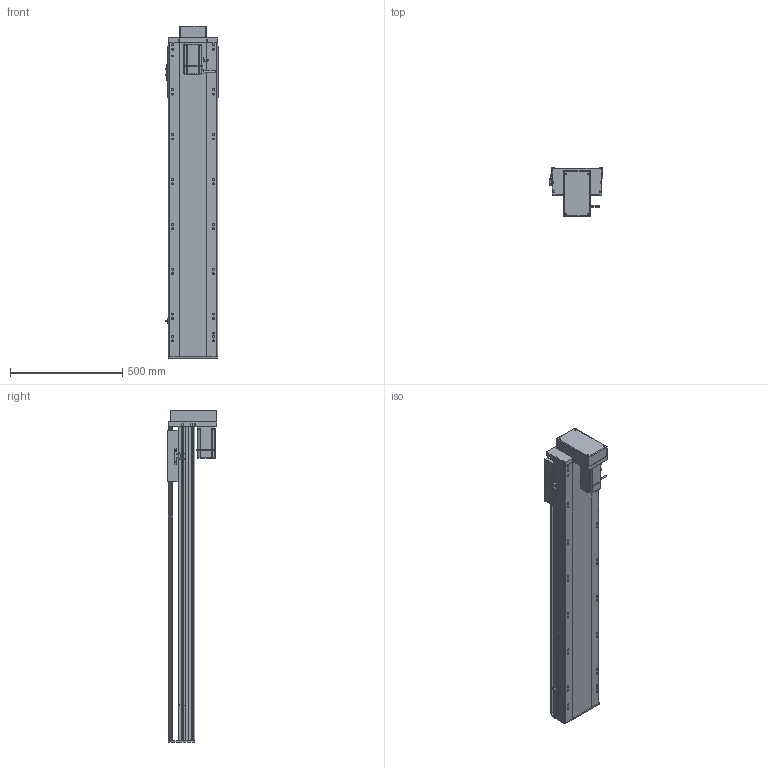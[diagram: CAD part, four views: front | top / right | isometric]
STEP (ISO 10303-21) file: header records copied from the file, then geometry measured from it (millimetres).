
FILE_DESCRIPTION (( 'STEP AP214' ), '1' );
FILE_NAME ('RTH22-XX-1100-M-M75-C4.STEP', '2025-10-24T11:12:50', ( 'Microsoft' ), ( 'Microsoft' ), 'SwSTEP 2.0', 'SolidWorks 2018', '' );
FILE_SCHEMA (( 'AUTOMOTIVE_DESIGN' ));
Length unit declared in the file: millimetre
Products named in the file (10): N_RTH22-M-007奻裔^RTH22-XX-XX-M-M75-C4; N_OMRON EE-SX672 传感器^RTH22-XX-XX-M-M75-C4; N_750W萇儂^RTH22-XX-XX-M-M75-C4; RTH22-XX-1100-M-M75-C4; N_RTH22-M-008-P75萇儂啣^RTH22-XX-XX-M-M75-C4; N_RTH22-L-011菁釱^RTH22-XX-XX-M-M75-C4; N_RTH22-M-018裔赽^RTH22-XX-XX-M-M75-C4; N_RTH22-L-004-SFS25賑釱^RTH22-XX-XX-M-M75-C4; N_RTH22-GY-013外置感应片^RTH22-XX-XX-M-M75-C4; N_RTH22-GY-001耜裔^RTH22-XX-XX-M-M75-C4
Assembly tree (11 placements, depth 2):
  RTH22-XX-1100-M-M75-C4
    N_RTH22-L-011菁釱^RTH22-XX-XX-M-M75-C4
    N_RTH22-GY-001耜裔^RTH22-XX-XX-M-M75-C4
    N_750W萇儂^RTH22-XX-XX-M-M75-C4
    N_RTH22-M-008-P75萇儂啣^RTH22-XX-XX-M-M75-C4
    N_RTH22-M-007奻裔^RTH22-XX-XX-M-M75-C4
    N_RTH22-M-018裔赽^RTH22-XX-XX-M-M75-C4
    N_OMRON EE-SX672 传感器^RTH22-XX-XX-M-M75-C4  x3
    N_RTH22-GY-013外置感应片^RTH22-XX-XX-M-M75-C4
    N_RTH22-L-004-SFS25賑釱^RTH22-XX-XX-M-M75-C4
Bounding box: 238.5 x 218.5 x 1479.7 mm (x, y, z)
Volume: 20003584.7 mm3; surface area: 2182397.9 mm2
Topology: 11 solids, 11 shells, 1641 faces, 4480 edges, 2885 vertices
Faces by surface type: plane 809, cylinder 487, bspline 279, cone 66
Entity records: 41657 total; most frequent: CARTESIAN_POINT 12512, ORIENTED_EDGE 5920, DIRECTION 5614, EDGE_CURVE 2960, VERTEX_POINT 1921, AXIS2_PLACEMENT_3D 1895, VECTOR 1824, LINE 1824
